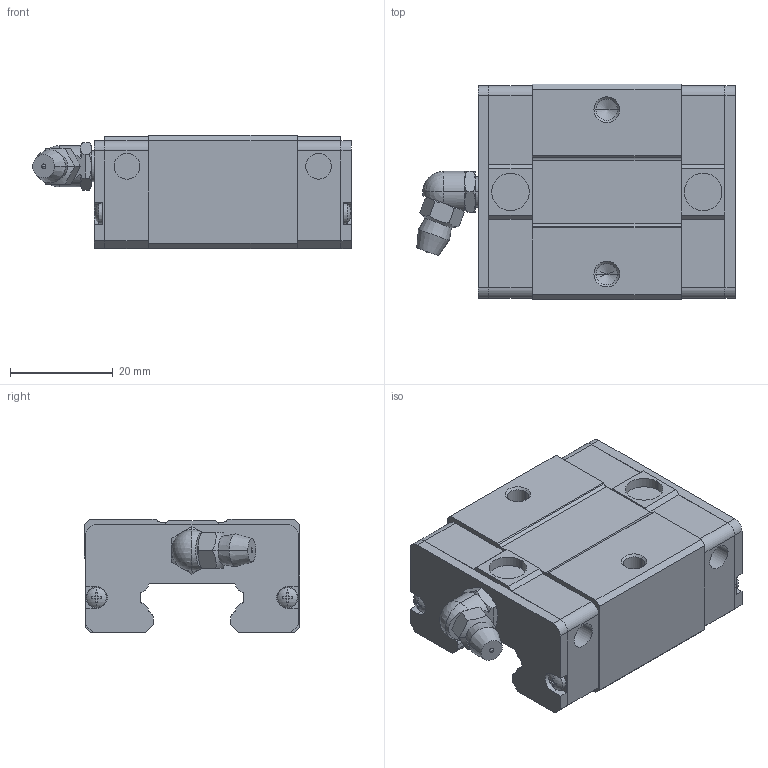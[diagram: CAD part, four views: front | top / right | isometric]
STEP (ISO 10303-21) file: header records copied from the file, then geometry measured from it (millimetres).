
FILE_DESCRIPTION(('starvars output'),'2;1');
FILE_NAME('cv20190610052122000018155.stp','05:21:23 2019/06/10',( 'Thomas Industrial Network Germany GmbH'),( 'Thomas Industrial Network Germany GmbH'),'unknown preprocess','ACIS' ,'unknown authorization');
FILE_SCHEMA(('CONFIG_CONTROL_DESIGN {UNKNOWN IMPLEMENTATION LEVEL}'));
Length unit declared in the file: millimetre
Products named in the file (10): PRODUCT_ID_1; PRODUCT_ID_2; PRODUCT_ID_3; PRODUCT_ID_4; PRODUCT_ID_5; PRODUCT_ID_6; PRODUCT_ID_7; PRODUCT_ID_8; PRODUCT_ID_9; PRODUCT_ID_10
Bounding box: 62 x 42 x 22 mm (x, y, z)
Volume: 36288.7 mm3; surface area: 16036.8 mm2
Topology: 10 solids, 10 shells, 399 faces, 1052 edges, 678 vertices
Faces by surface type: plane 212, cylinder 123, cone 52, sphere 12
Entity records: 12140 total; most frequent: ORIENTED_EDGE 2088, CARTESIAN_POINT 1996, DIRECTION 1793, EDGE_CURVE 1044, VERTEX_POINT 678, AXIS2_PLACEMENT_3D 601, VECTOR 591, LINE 591
